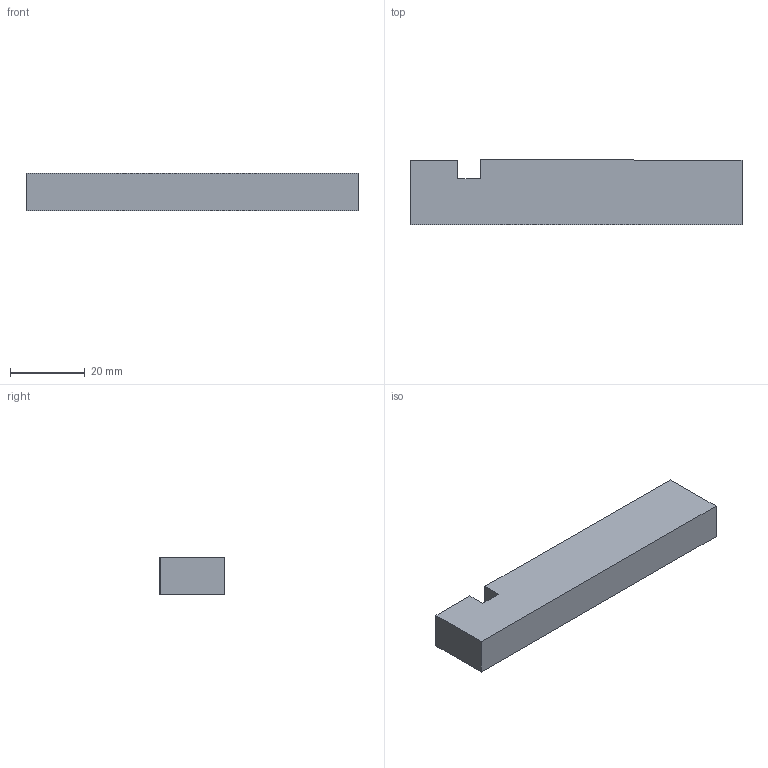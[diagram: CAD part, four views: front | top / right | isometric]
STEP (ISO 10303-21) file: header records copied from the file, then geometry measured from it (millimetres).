
FILE_DESCRIPTION (( 'STEP AP203' ), '1' );
FILE_NAME ('AB808FJ.STEP', '2024-02-22T13:14:02', ( '' ), ( '' ), 'SwSTEP 2.0', 'SolidWorks 2020', '' );
FILE_SCHEMA (( 'CONFIG_CONTROL_DESIGN' ));
Length unit declared in the file: millimetre
Products named in the file (1): AB808FJ
Bounding box: 89.06 x 17.47 x 10 mm (x, y, z)
Volume: 15117.4 mm3; surface area: 5249.7 mm2
Topology: 1 solids, 1 shells, 10 faces, 24 edges, 16 vertices
Faces by surface type: plane 10
Entity records: 365 total; most frequent: CARTESIAN_POINT 51, ORIENTED_EDGE 48, DIRECTION 46, LINE 24, EDGE_CURVE 24, VECTOR 24, VERTEX_POINT 16, AXIS2_PLACEMENT_3D 11
